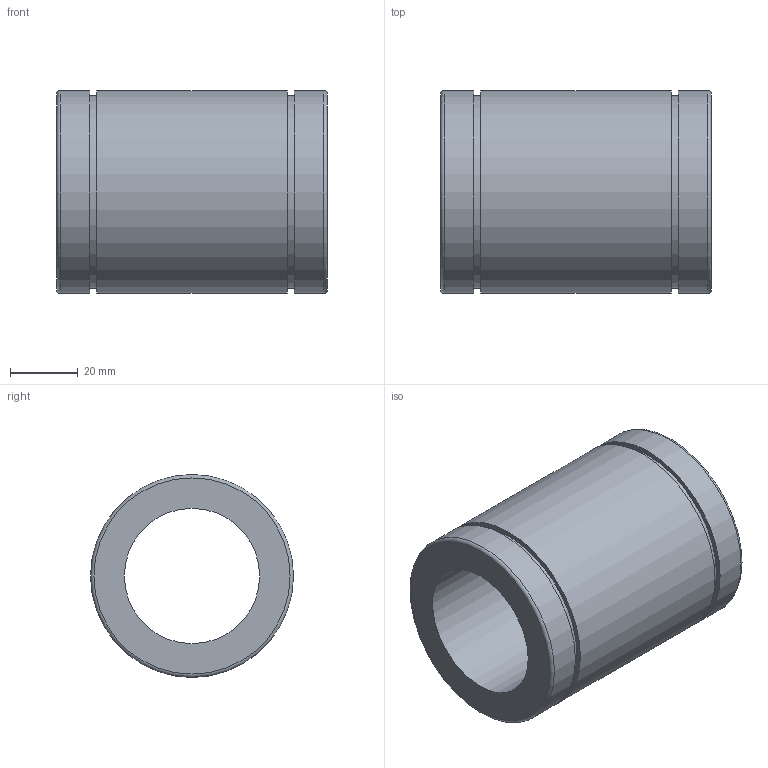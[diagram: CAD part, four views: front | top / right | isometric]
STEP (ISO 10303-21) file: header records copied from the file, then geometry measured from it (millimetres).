
FILE_DESCRIPTION(('STEP AP203'),'1');
FILE_NAME('//192.168.1.1/share/s-4 技術開発/s-4-13_CAD/03_見直し済み/001 修正済み/N/N_TOP/N-40.step','2020-04-02T23:55:43',(' '),(' '),'Spatial InterOp 3D',' ',' ');
FILE_SCHEMA(('CONFIG_CONTROL_DESIGN'));
Length unit declared in the file: millimetre
Products named in the file (1): 1
Bounding box: 80 x 60 x 60 mm (x, y, z)
Volume: 124425.6 mm3; surface area: 29174.8 mm2
Topology: 1 solids, 1 shells, 14 faces, 25 edges, 17 vertices
Faces by surface type: cylinder 6, plane 6, torus 2
Full cylindrical faces by diameter (mm): 40 x1, 57 x2, 60 x3
Entity records: 332 total; most frequent: DIRECTION 58, CARTESIAN_POINT 43, AXIS2_PLACEMENT_3D 29, EDGE_LOOP 28, ORIENTED_EDGE 28, FACE_OUTER_BOUND 22, ADVANCED_FACE 14, EDGE_CURVE 14
